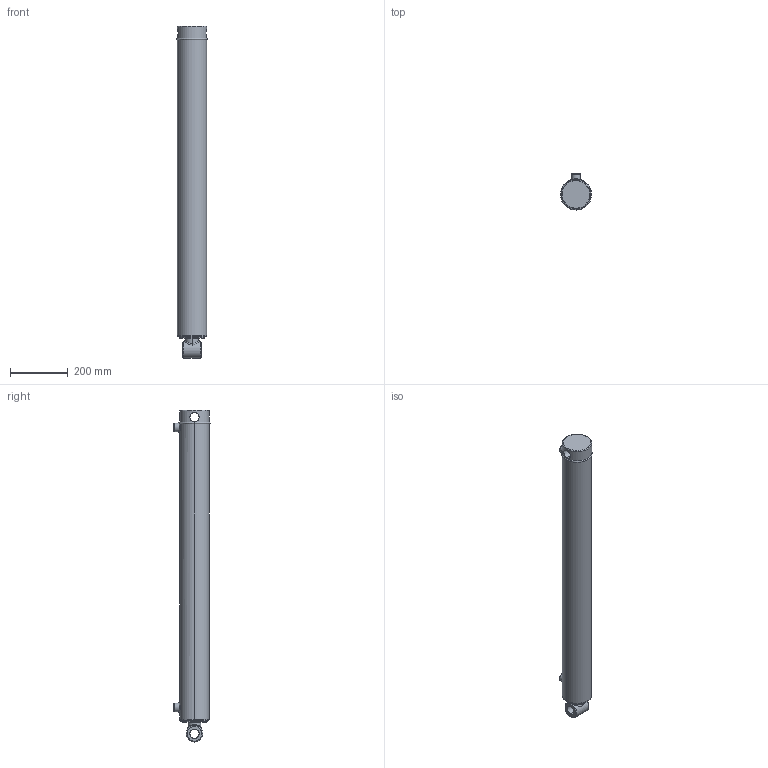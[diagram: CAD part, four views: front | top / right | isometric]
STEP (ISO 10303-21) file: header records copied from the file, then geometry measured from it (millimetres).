
FILE_DESCRIPTION (( 'STEP AP203' ), '1' );
FILE_NAME ('SB-C350175x914 (36).STEP', '2015-04-01T10:49:00', ( '' ), ( '' ), 'SwSTEP 2.0', 'SolidWorks 2015', '' );
FILE_SCHEMA (( 'CONFIG_CONTROL_DESIGN' ));
Length unit declared in the file: millimetre
Products named in the file (6): SB-C350175x457 (18) BODY; 18 spare_36; spare 18; SB-C350175x914 (36); SB-C350175x457 (18) BODY_36; 3.5 INCH CIRCLIP
Assembly tree (5 placements, depth 3):
  SB-C350175x914 (36)
    SB-C350175x457 (18) BODY
      SB-C350175x457 (18) BODY_36
      3.5 INCH CIRCLIP
    spare 18
      18 spare_36
Bounding box: 107.6 x 124.6 x 1148.58 mm (x, y, z)
Volume: 9810055.3 mm3; surface area: 593233.3 mm2
Topology: 3 solids, 3 shells, 114 faces, 269 edges, 167 vertices
Faces by surface type: cylinder 49, plane 23, bspline 22, cone 12, torus 8
Entity records: 13049 total; most frequent: CARTESIAN_POINT 9929, ORIENTED_EDGE 530, DIRECTION 518, EDGE_CURVE 265, AXIS2_PLACEMENT_3D 220, VERTEX_POINT 167, EDGE_LOOP 134, CIRCLE 118
